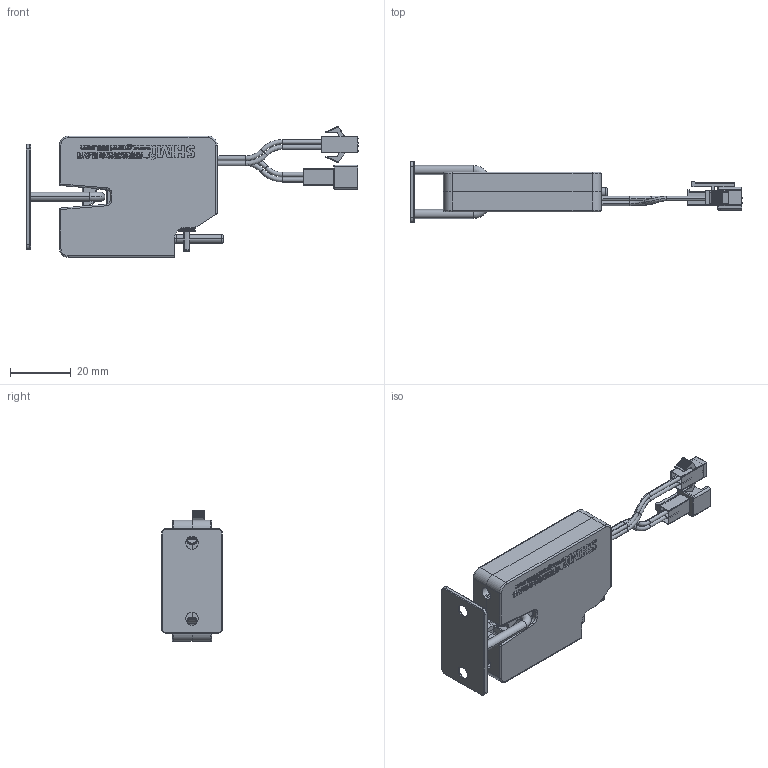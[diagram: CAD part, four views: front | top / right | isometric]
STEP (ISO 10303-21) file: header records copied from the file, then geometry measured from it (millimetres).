
FILE_DESCRIPTION((''),'2;1');
FILE_NAME('XG-01_ASM','2024-09-11T13:52:52',('PRIME'),(''),'CREO PARAMETRIC BY PTC INC, 2023073','CREO PARAMETRIC BY PTC INC, 2023073','');
FILE_SCHEMA(('CONFIG_CONTROL_DESIGN','SHAPE_APPEARANCE_LAYERS_GROUPS'));
Products named in the file (16): XG-01-00; XG01-U00; XG01-L00; XG01-0001; M3--8MM0001; XG01--0001; XG01--0002; XG01--0003; XG01--0004; XG01--0006; XG01--0005; XG01-000_ASM; _50MM0001; 0001; XG-01_ASM
Assembly tree (17 placements, depth 3):
  XG-01_ASM
    XG-01-00
    XG-01-00
    XG01-U00
    XG01-L00
    XG01-0001  x2
    M3--8MM0001  x2
    XG01-000_ASM
      XG01--0001
      XG01--0002
      XG01--0003
      XG01--0004
      XG01--0006
      XG01--0005
    _50MM0001
    0001
Bounding box: 109.4 x 20 x 43.16 mm (x, y, z)
Volume: 15004.1 mm3; surface area: 23671.2 mm2
Topology: 20 solids, 20 shells, 2944 faces, 7365 edges, 4567 vertices
Faces by surface type: plane 996, cylinder 662, extrusion 555, bspline 401, torus 219, cone 86, sphere 23, revolution 2
Entity records: 131116 total; most frequent: CARTESIAN_POINT 47453, ORIENTED_EDGE 13778, DIRECTION 10956, EDGE_CURVE 6889, PRESENTATION_STYLE_ASSIGNMENT 4312, VERTEX_POINT 4294, VECTOR 4150, LINE 3595
